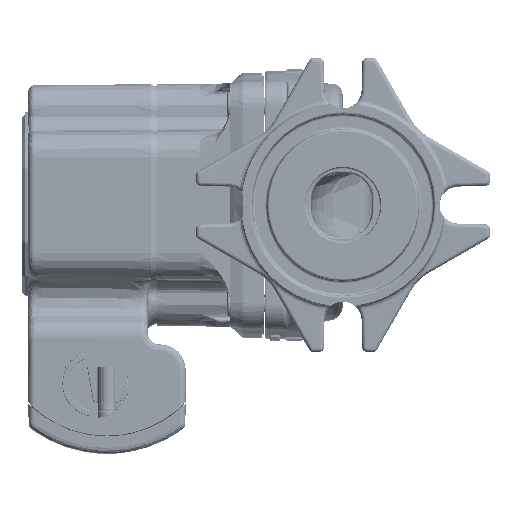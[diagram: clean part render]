
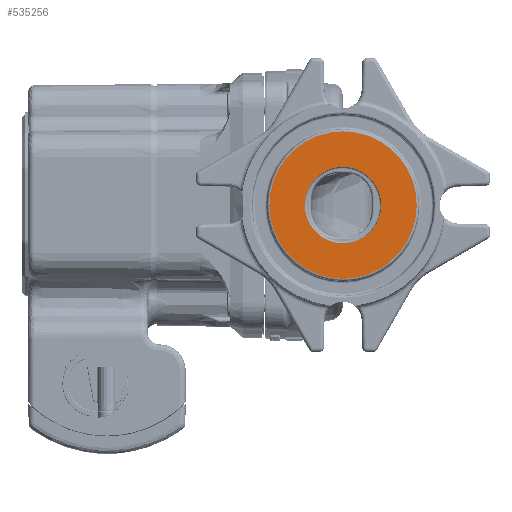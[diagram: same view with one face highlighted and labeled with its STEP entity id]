
A CAD part, left-side view. The second image highlights one B-rep face of the part: STEP entity #535256.
In plain terms, the highlighted planar face has unit normal (-1, 0, 0).
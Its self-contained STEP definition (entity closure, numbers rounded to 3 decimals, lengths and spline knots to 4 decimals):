
#3753 = AXIS2_PLACEMENT_3D ( 'NONE', #389614, #446080, #492255 ) ;
#16073 = CIRCLE ( 'NONE', #95367, 0.495 ) ;
#28996 = CARTESIAN_POINT ( 'NONE',  ( -3.165, -1.8133, 0. ) ) ;
#60539 = CIRCLE ( 'NONE', #72184, 0.495 ) ;
#72184 = AXIS2_PLACEMENT_3D ( 'NONE', #388868, #448868, #452335 ) ;
#95367 = AXIS2_PLACEMENT_3D ( 'NONE', #294106, #665422, #297606 ) ;
#161838 = VERTEX_POINT ( 'NONE', #484845 ) ;
#170087 = VERTEX_POINT ( 'NONE', #332062 ) ;
#174037 = FACE_OUTER_BOUND ( 'NONE', #531129, .T. ) ;
#195164 = DIRECTION ( 'NONE',  ( -1., 0., 0. ) ) ;
#204733 = ORIENTED_EDGE ( 'NONE', *, *, #268091, .T. ) ;
#215214 = DIRECTION ( 'NONE',  ( -1., 0., 0. ) ) ;
#220332 = AXIS2_PLACEMENT_3D ( 'NONE', #338692, #215214, #222225 ) ;
#222225 = DIRECTION ( 'NONE',  ( 0., 0., 1. ) ) ;
#227194 = AXIS2_PLACEMENT_3D ( 'NONE', #28996, #195164, #626455 ) ;
#268091 = EDGE_CURVE ( 'NONE', #669638, #569256, #60539, .T. ) ;
#282571 = ORIENTED_EDGE ( 'NONE', *, *, #687084, .T. ) ;
#294106 = CARTESIAN_POINT ( 'NONE',  ( -3.165, -1.8133, 0. ) ) ;
#297606 = DIRECTION ( 'NONE',  ( 0., 0., 1. ) ) ;
#299411 = ORIENTED_EDGE ( 'NONE', *, *, #424700, .T. ) ;
#332062 = CARTESIAN_POINT ( 'NONE',  ( -3.165, -1.8133, 0.9525 ) ) ;
#338692 = CARTESIAN_POINT ( 'NONE',  ( -3.165, -1.8133, 0. ) ) ;
#346805 = CARTESIAN_POINT ( 'NONE',  ( -3.165, -1.8133, -0.495 ) ) ;
#373942 = ORIENTED_EDGE ( 'NONE', *, *, #667133, .T. ) ;
#388868 = CARTESIAN_POINT ( 'NONE',  ( -3.165, -1.8133, 0. ) ) ;
#389614 = CARTESIAN_POINT ( 'NONE',  ( -3.165, -3.3943, 0. ) ) ;
#424700 = EDGE_CURVE ( 'NONE', #170087, #161838, #611289, .T. ) ;
#435693 = PLANE ( 'NONE',  #3753 ) ;
#446080 = DIRECTION ( 'NONE',  ( 1., 0., 0. ) ) ;
#448868 = DIRECTION ( 'NONE',  ( 1., 0., 0. ) ) ;
#452335 = DIRECTION ( 'NONE',  ( 0., 0., 1. ) ) ;
#484845 = CARTESIAN_POINT ( 'NONE',  ( -3.165, -1.8133, -0.9525 ) ) ;
#492255 = DIRECTION ( 'NONE',  ( 0., 0., 1. ) ) ;
#499178 = FACE_BOUND ( 'NONE', #654005, .T. ) ;
#525208 = CIRCLE ( 'NONE', #220332, 0.9525 ) ;
#531129 = EDGE_LOOP ( 'NONE', ( #299411, #282571 ) ) ;
#535256 = ADVANCED_FACE ( 'NONE', ( #174037, #499178 ), #435693, .F. ) ;
#569256 = VERTEX_POINT ( 'NONE', #346805 ) ;
#611289 = CIRCLE ( 'NONE', #227194, 0.9525 ) ;
#626455 = DIRECTION ( 'NONE',  ( 0., 0., 1. ) ) ;
#654005 = EDGE_LOOP ( 'NONE', ( #204733, #373942 ) ) ;
#657048 = CARTESIAN_POINT ( 'NONE',  ( -3.165, -1.8133, 0.495 ) ) ;
#665422 = DIRECTION ( 'NONE',  ( 1., 0., 0. ) ) ;
#667133 = EDGE_CURVE ( 'NONE', #569256, #669638, #16073, .T. ) ;
#669638 = VERTEX_POINT ( 'NONE', #657048 ) ;
#687084 = EDGE_CURVE ( 'NONE', #161838, #170087, #525208, .T. ) ;
